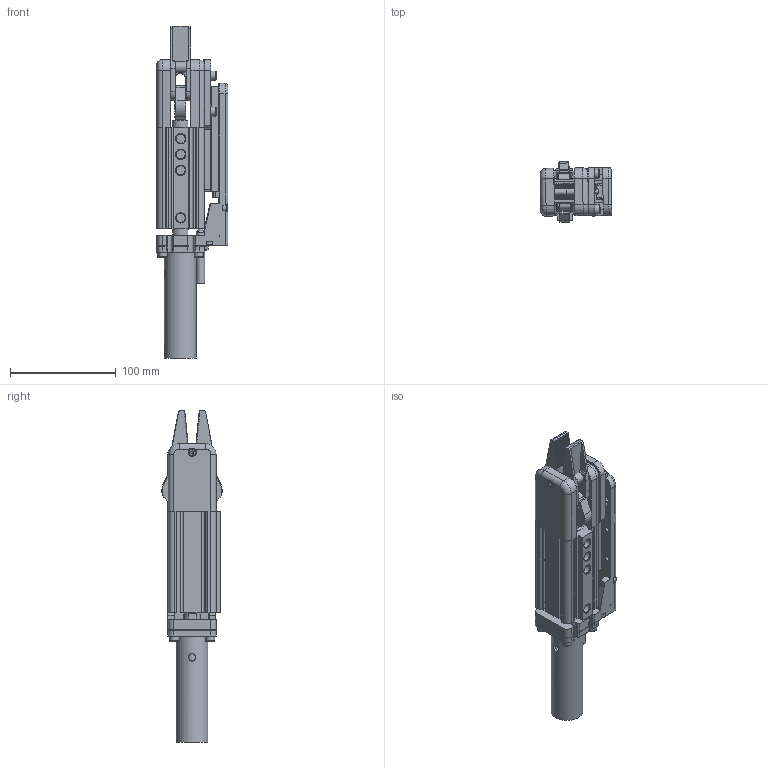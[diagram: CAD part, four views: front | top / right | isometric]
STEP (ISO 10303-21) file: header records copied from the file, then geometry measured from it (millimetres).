
FILE_DESCRIPTION(/* description */ (''),/* implementation_level */ '2;1');
FILE_NAME(/* name */ '8Y00315-GRP32A-30--30.stp',/* time_stamp */ '2023-02-22T11:52:27+08:00',/* author */ (''),/* organization */ (''),/* preprocessor_version */ 'ST-DEVELOPER v16',/* originating_system */ 'SIEMENS PLM Software NX 10.0',/* authorisation */ '');
FILE_SCHEMA (('AUTOMOTIVE_DESIGN { 1 0 10303 214 3 1 1 1 }'));
Length unit declared in the file: millimetre
Products named in the file (1): _model36
Bounding box: 67.52 x 57.07 x 313.95 mm (x, y, z)
Volume: 406861.3 mm3; surface area: 157133.1 mm2
Topology: 14 solids, 35 shells, 1380 faces, 3469 edges, 2185 vertices
Faces by surface type: plane 886, cylinder 308, cone 143, torus 29, sphere 14
Full cylindrical faces by diameter (mm): 2.5 x2, 3.242 x2, 3.3 x6, 4 x10, 4.1 x1, 4.2 x14, 4.5 x10, 5 x13, 5.2 x8, 5.5 x8, 6 x8, 6.5 x1, 6.647 x1, 7 x12, 8 x9, 8.5 x13, 8.566 x4, 9 x12, 10 x6, 13 x1, 13.5 x1, 14 x1, 15 x2, 16 x3, 17 x12, 20 x3, 21 x2, 30 x1, 32 x2, 34 x3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
Entity records: 48965 total; most frequent: CARTESIAN_POINT 7854, DIRECTION 6602, ORIENTED_EDGE 5944, EDGE_CURVE 2972, AXIS2_PLACEMENT_3D 2336, VERTEX_POINT 2071, LINE 1930, VECTOR 1930
